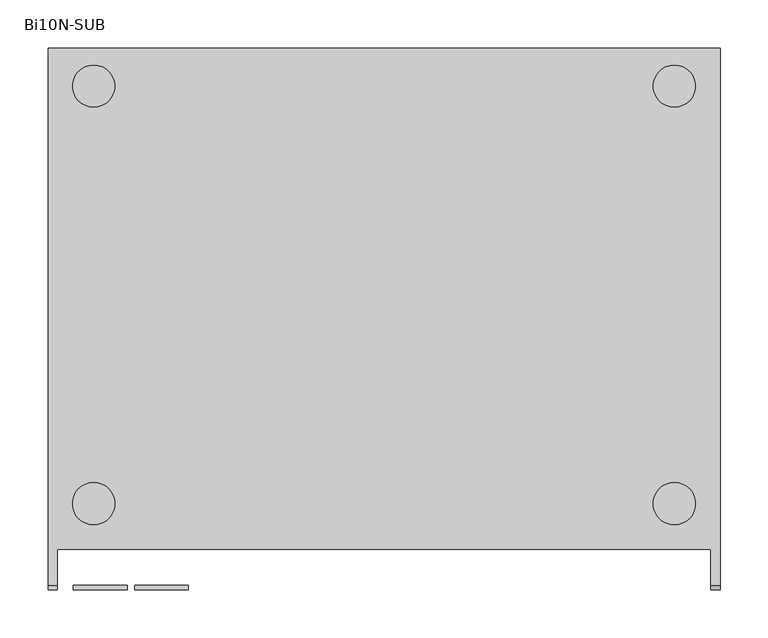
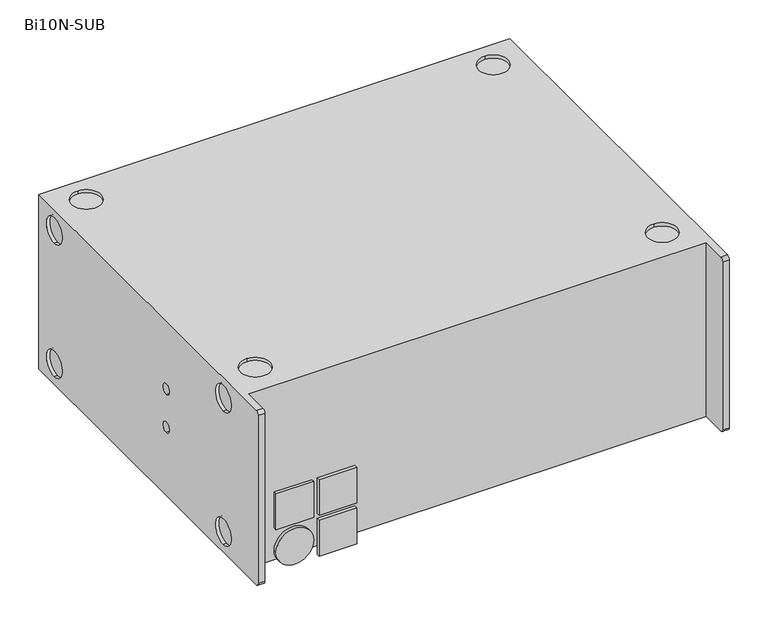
"""IFC4 building model written with IfcOpenShell, lengths in millimetres: proxy geometry, d&b Bi10N-SUB : Bi10N-SUB."""

from ifc_helpers import new_model, si_unit, point, frame, frame_2d, origin, origin_with_axes, place, context, project, spatial, polyline, circle_curve, trimmed, segment, composite_curve, outline, extrude, source, transform, mapped, element, save
from ifc_brep_helpers import plane_surface, cylinder_surface, revolved_surface, advanced_brep


def bi10n_sub_36906f2f(model_context):
    return source(origin(), model_context, "Body", "SolidModel", [
        advanced_brep(
        [(2850.0, 504.2505973, 279.0), (2150.0, 504.2505973, 279.0), (2150.0, -55.7494027, 279.0), (2159.8, -55.7494027, 279.0), (2159.8, -18.2494027, 279.0), (2840.2, -18.2494027, 279.0), (2840.2, -55.7494027, 279.0), (2850.0, -55.7494027, 279.0), (2197.5, 7.2505973, 279.0), (2197.5, 51.2505973, 279.0), (2197.5, 442.4754449, 279.0), (2197.5, 486.4754449, 279.0), (2802.5, 7.2505973, 279.0), (2802.5, 51.2505973, 279.0), (2802.5, 442.4754449, 279.0), (2802.5, 486.4754449, 279.0), (2150.0, 504.2505973, 5.0), (2150.0, -55.7494027, 5.0), (2150.0, -60.7494027, 10.0), (2150.0, -60.7494027, 274.0), (2150.0, 464.2505973, 227.0), (2150.0, 464.2505973, 267.0), (2150.0, 464.2505973, 17.0), (2150.0, 464.2505973, 57.0), (2150.0, 29.0257497, 17.0), (2150.0, 29.0257497, 57.0), (2150.0, 29.0257497, 227.0), (2150.0, 29.0257497, 267.0), (2150.0, 176.2505973, 163.9), (2150.0, 176.2505973, 180.1), (2150.0, 176.2505973, 103.9), (2150.0, 176.2505973, 120.1), (2159.8, -18.2494027, 5.0), (2840.2, -18.2494027, 5.0), (2159.8, -60.7494027, 10.0), (2159.8, -60.7494027, 274.0), (2723.3470134, 499.2505973, 191.7), (2723.3470134, 499.2505973, 92.3), (2712.8470134, 499.2505973, 81.8), (2669.8470134, 499.2505973, 81.8), (2659.3470134, 499.2505973, 92.3), (2659.3470134, 499.2505973, 191.7), (2669.8470134, 499.2505973, 202.2), (2712.8470134, 499.2505973, 202.2), (2159.8, -55.7494027, 5.0), (2850.0, 504.2505973, 5.0), (2850.0, -55.7494027, 5.0), (2840.2, -55.7494027, 5.0), (2650.1470134, 504.2505973, 190.6470095), (2638.1470134, 504.2505973, 202.6470095), (2519.153425, 504.2505973, 202.6470095), (2503.926988, 504.2505973, 192.1470095), (2424.073012, 504.2505973, 192.1470095), (2408.846575, 504.2505973, 202.6470095), (2289.8529944, 504.2505973, 202.6470095), (2277.8529944, 504.2505973, 190.6470095), (2277.8529944, 504.2505973, 93.3529905), (2289.8529944, 504.2505973, 81.3529905), (2408.846575, 504.2505973, 81.3529905), (2424.073012, 504.2505973, 91.8529905), (2503.926988, 504.2505973, 91.8529905), (2519.153425, 504.2505973, 81.3529905), (2638.1470134, 504.2505973, 81.3529905), (2650.1470134, 504.2505973, 93.3529905), (2723.3470134, 504.2505973, 92.3), (2723.3470134, 504.2505973, 191.7), (2712.8470134, 504.2505973, 202.2), (2669.8470134, 504.2505973, 202.2), (2659.3470134, 504.2505973, 191.7), (2659.3470134, 504.2505973, 92.3), (2669.8470134, 504.2505973, 81.8), (2712.8470134, 504.2505973, 81.8), (2197.5, 51.2505973, 274.0), (2197.5, 7.2505973, 274.0), (2197.5, 486.4754449, 274.0), (2197.5, 442.4754449, 274.0), (2840.2, -60.7494027, 10.0), (2840.2, -60.7494027, 274.0), (2850.0, -60.7494027, 274.0), (2850.0, -60.7494027, 10.0), (2850.0, 176.2505973, 163.9), (2850.0, 176.2505973, 180.1), (2850.0, 176.2505973, 103.9), (2850.0, 176.2505973, 120.1), (2802.5, 7.2505973, 274.0), (2802.5, 51.2505973, 274.0), (2802.5, 442.4754449, 274.0), (2802.5, 486.4754449, 274.0), (2287.8529944, 449.0471889, 185.5005283), (2340.1469289, 449.0471889, 185.5005283), (2340.1469289, 449.0471889, 98.5432161), (2287.8529944, 449.0471889, 98.5432161), (2287.8529944, 499.2505973, 185.5005283), (2357.9303168, 499.2505973, 185.5005283), (2357.9303168, 499.2505973, 98.5432161), (2287.8529944, 499.2505973, 98.5432161), (2638.1470134, 499.2505973, 202.6470095), (2650.1470134, 499.2505973, 190.6470095), (2650.1470134, 499.2505973, 93.3529905), (2638.1470134, 499.2505973, 81.3529905), (2519.153425, 499.2505973, 81.3529905), (2503.926988, 499.2505973, 91.8529905), (2424.073012, 499.2505973, 91.8529905), (2408.846575, 499.2505973, 81.3529905), (2289.8529944, 499.2505973, 81.3529905), (2277.8529944, 499.2505973, 93.3529905), (2277.8529944, 499.2505973, 190.6470095), (2289.8529944, 499.2505973, 202.6470095), (2408.846575, 499.2505973, 202.6470095), (2424.073012, 499.2505973, 192.1470095), (2503.926988, 499.2505973, 192.1470095), (2519.153425, 499.2505973, 202.6470095), (2638.9562346, 499.2505973, 185.5005283), (2542.01192, 499.2505973, 185.5005283), (2542.01192, 499.2505973, 98.5432161), (2638.9562346, 499.2505973, 98.5432161), (2627.0000039, 449.0471889, 185.5005283), (2627.0000039, 449.0471889, 98.5432161), (2562.712914, 449.0471889, 98.5432161), (2562.712914, 449.0471889, 185.5005283), (2155.0, 464.2505973, 227.0), (2155.0, 464.2505973, 267.0), (2155.0, 464.2505973, 17.0), (2155.0, 464.2505973, 57.0), (2155.0, 29.0257497, 17.0), (2155.0, 29.0257497, 57.0), (2155.0, 29.0257497, 227.0), (2155.0, 29.0257497, 267.0), (2220.0, 176.2505973, 180.1), (2220.0, 176.2505973, 163.9), (2220.0, 176.2505973, 120.1), (2220.0, 176.2505973, 103.9), (2780.0, 176.2505973, 163.9), (2780.0, 176.2505973, 180.1), (2780.0, 176.2505973, 103.9), (2780.0, 176.2505973, 120.1)],
        [
            (0, 1),
            (1, 2),
            (2, 3),
            (3, 4),
            (4, 5),
            (5, 6),
            (6, 7),
            (7, 0),
            (8, 9, circle_curve(frame((2197.5, 29.2505973, 279.0), z_axis=(0.0, 0.0, -1.0), x_axis=(0.0, 1.0, 0.0)), 22.0)),
            (9, 8, circle_curve(frame((2197.5, 29.2505973, 279.0), z_axis=(0.0, 0.0, -1.0), x_axis=(0.0, 1.0, 0.0)), 22.0)),
            (10, 11, circle_curve(frame((2197.5, 464.4754449, 279.0), z_axis=(0.0, 0.0, -1.0), x_axis=(0.0, 1.0, 0.0)), 22.0)),
            (11, 10, circle_curve(frame((2197.5, 464.4754449, 279.0), z_axis=(0.0, 0.0, -1.0), x_axis=(0.0, 1.0, 0.0)), 22.0)),
            (12, 13, circle_curve(frame((2802.5, 29.2505973, 279.0), z_axis=(0.0, 0.0, -1.0), x_axis=(0.0, 1.0, 0.0)), 22.0)),
            (13, 12, circle_curve(frame((2802.5, 29.2505973, 279.0), z_axis=(0.0, 0.0, -1.0), x_axis=(0.0, 1.0, 0.0)), 22.0)),
            (14, 15, circle_curve(frame((2802.5, 464.4754449, 279.0), z_axis=(0.0, 0.0, -1.0), x_axis=(0.0, 1.0, 0.0)), 22.0)),
            (15, 14, circle_curve(frame((2802.5, 464.4754449, 279.0), z_axis=(0.0, 0.0, -1.0), x_axis=(0.0, 1.0, 0.0)), 22.0)),
            (1, 16),
            (16, 17),
            (17, 18, circle_curve(frame((2150.0, -55.7494027, 10.0), z_axis=(-1.0, 0.0, 0.0), x_axis=(0.0, 0.0, 1.0)), 5.0)),
            (18, 19),
            (19, 2, circle_curve(frame((2150.0, -55.7494027, 274.0), z_axis=(-1.0, 0.0, 0.0), x_axis=(0.0, 0.0, 1.0)), 5.0)),
            (20, 21, circle_curve(frame((2150.0, 464.2505973, 247.0), z_axis=(1.0, 0.0, 0.0), x_axis=(0.0, 0.0, 1.0)), 20.0)),
            (21, 20, circle_curve(frame((2150.0, 464.2505973, 247.0), z_axis=(1.0, 0.0, 0.0), x_axis=(0.0, 0.0, 1.0)), 20.0)),
            (22, 23, circle_curve(frame((2150.0, 464.2505973, 37.0), z_axis=(1.0, 0.0, 0.0), x_axis=(0.0, 0.0, 1.0)), 20.0)),
            (23, 22, circle_curve(frame((2150.0, 464.2505973, 37.0), z_axis=(1.0, 0.0, 0.0), x_axis=(0.0, 0.0, 1.0)), 20.0)),
            (24, 25, circle_curve(frame((2150.0, 29.0257497, 37.0), z_axis=(1.0, 0.0, 0.0), x_axis=(0.0, 0.0, 1.0)), 20.0)),
            (25, 24, circle_curve(frame((2150.0, 29.0257497, 37.0), z_axis=(1.0, 0.0, 0.0), x_axis=(0.0, 0.0, 1.0)), 20.0)),
            (26, 27, circle_curve(frame((2150.0, 29.0257497, 247.0), z_axis=(1.0, 0.0, 0.0), x_axis=(0.0, 0.0, 1.0)), 20.0)),
            (27, 26, circle_curve(frame((2150.0, 29.0257497, 247.0), z_axis=(1.0, 0.0, 0.0), x_axis=(0.0, 0.0, 1.0)), 20.0)),
            (28, 29, circle_curve(frame((2150.0, 176.2505973, 172.0), z_axis=(1.0, 0.0, 0.0), x_axis=(0.0, 0.0, 1.0)), 8.1)),
            (29, 28, circle_curve(frame((2150.0, 176.2505973, 172.0), z_axis=(1.0, 0.0, 0.0), x_axis=(0.0, 0.0, 1.0)), 8.1)),
            (30, 31, circle_curve(frame((2150.0, 176.2505973, 112.0), z_axis=(1.0, 0.0, 0.0), x_axis=(0.0, 0.0, 1.0)), 8.1)),
            (31, 30, circle_curve(frame((2150.0, 176.2505973, 112.0), z_axis=(1.0, 0.0, 0.0), x_axis=(0.0, 0.0, 1.0)), 8.1)),
            (4, 32),
            (32, 33),
            (33, 5),
            (18, 34),
            (34, 35),
            (35, 19),
            (36, 37),
            (37, 38, circle_curve(frame((2712.8470134, 499.2505973, 92.3), z_axis=(0.0, 1.0, 0.0), x_axis=(-1.0, 0.0, 0.0)), 10.5)),
            (38, 39),
            (39, 40, circle_curve(frame((2669.8470134, 499.2505973, 92.3), z_axis=(0.0, 1.0, 0.0), x_axis=(-1.0, 0.0, 0.0)), 10.5)),
            (40, 41),
            (41, 42, circle_curve(frame((2669.8470134, 499.2505973, 191.7), z_axis=(0.0, 1.0, 0.0), x_axis=(-1.0, 0.0, 0.0)), 10.5)),
            (42, 43),
            (43, 36, circle_curve(frame((2712.8470134, 499.2505973, 191.7), z_axis=(0.0, 1.0, 0.0), x_axis=(-1.0, 0.0, 0.0)), 10.5)),
            (32, 44),
            (44, 17),
            (16, 45),
            (45, 46),
            (46, 47),
            (47, 33),
            (0, 45),
            (48, 49, circle_curve(frame((2638.1470134, 504.2505973, 190.6470095), z_axis=(0.0, -1.0, 0.0), x_axis=(-1.0, 0.0, 0.0)), 12.0)),
            (49, 50),
            (50, 51),
            (51, 52),
            (52, 53),
            (53, 54),
            (54, 55, circle_curve(frame((2289.8529944, 504.2505973, 190.6470095), z_axis=(0.0, -1.0, 0.0), x_axis=(-1.0, 0.0, 0.0)), 12.0)),
            (55, 56),
            (56, 57, circle_curve(frame((2289.8529944, 504.2505973, 93.3529905), z_axis=(0.0, -1.0, 0.0), x_axis=(-1.0, 0.0, 0.0)), 12.0)),
            (57, 58),
            (58, 59),
            (59, 60),
            (60, 61),
            (61, 62),
            (62, 63, circle_curve(frame((2638.1470134, 504.2505973, 93.3529905), z_axis=(0.0, -1.0, 0.0), x_axis=(-1.0, 0.0, 0.0)), 12.0)),
            (63, 48),
            (64, 65),
            (65, 66, circle_curve(frame((2712.8470134, 504.2505973, 191.7), z_axis=(0.0, -1.0, 0.0), x_axis=(-1.0, 0.0, 0.0)), 10.5)),
            (66, 67),
            (67, 68, circle_curve(frame((2669.8470134, 504.2505973, 191.7), z_axis=(0.0, -1.0, 0.0), x_axis=(-1.0, 0.0, 0.0)), 10.5)),
            (68, 69),
            (69, 70, circle_curve(frame((2669.8470134, 504.2505973, 92.3), z_axis=(0.0, -1.0, 0.0), x_axis=(-1.0, 0.0, 0.0)), 10.5)),
            (70, 71),
            (71, 64, circle_curve(frame((2712.8470134, 504.2505973, 92.3), z_axis=(0.0, -1.0, 0.0), x_axis=(-1.0, 0.0, 0.0)), 10.5)),
            (72, 73, circle_curve(frame((2197.5, 29.2505973, 274.0), z_axis=(0.0, 0.0, 1.0), x_axis=(0.0, 1.0, 0.0)), 22.0)),
            (73, 72, circle_curve(frame((2197.5, 29.2505973, 274.0), z_axis=(0.0, 0.0, 1.0), x_axis=(0.0, 1.0, 0.0)), 22.0)),
            (74, 75, circle_curve(frame((2197.5, 464.4754449, 274.0), z_axis=(0.0, 0.0, 1.0), x_axis=(0.0, 1.0, 0.0)), 22.0)),
            (75, 74, circle_curve(frame((2197.5, 464.4754449, 274.0), z_axis=(0.0, 0.0, 1.0), x_axis=(0.0, 1.0, 0.0)), 22.0)),
            (8, 73),
            (72, 9),
            (10, 75),
            (74, 11),
            (3, 35, circle_curve(frame((2159.8, -55.7494027, 274.0), z_axis=(1.0, 0.0, 0.0), x_axis=(0.0, 0.0, 1.0)), 5.0)),
            (34, 44, circle_curve(frame((2159.8, -55.7494027, 10.0), z_axis=(1.0, 0.0, 0.0), x_axis=(0.0, 0.0, 1.0)), 5.0)),
            (47, 76, circle_curve(frame((2840.2, -55.7494027, 10.0), z_axis=(-1.0, 0.0, 0.0), x_axis=(0.0, 0.0, 1.0)), 5.0)),
            (76, 77),
            (77, 6, circle_curve(frame((2840.2, -55.7494027, 274.0), z_axis=(-1.0, 0.0, 0.0), x_axis=(0.0, 0.0, 1.0)), 5.0)),
            (7, 78, circle_curve(frame((2850.0, -55.7494027, 274.0), z_axis=(1.0, 0.0, 0.0), x_axis=(0.0, 0.0, 1.0)), 5.0)),
            (78, 79),
            (79, 46, circle_curve(frame((2850.0, -55.7494027, 10.0), z_axis=(1.0, 0.0, 0.0), x_axis=(0.0, 0.0, 1.0)), 5.0)),
            (80, 81, circle_curve(frame((2850.0, 176.2505973, 172.0), z_axis=(-1.0, 0.0, 0.0), x_axis=(0.0, 0.0, 1.0)), 8.1)),
            (81, 80, circle_curve(frame((2850.0, 176.2505973, 172.0), z_axis=(-1.0, 0.0, 0.0), x_axis=(0.0, 0.0, 1.0)), 8.1)),
            (82, 83, circle_curve(frame((2850.0, 176.2505973, 112.0), z_axis=(-1.0, 0.0, 0.0), x_axis=(0.0, 0.0, 1.0)), 8.1)),
            (83, 82, circle_curve(frame((2850.0, 176.2505973, 112.0), z_axis=(-1.0, 0.0, 0.0), x_axis=(0.0, 0.0, 1.0)), 8.1)),
            (12, 84),
            (84, 85, circle_curve(frame((2802.5, 29.2505973, 274.0), z_axis=(0.0, 0.0, -1.0), x_axis=(0.0, 1.0, 0.0)), 22.0)),
            (85, 13),
            (85, 84, circle_curve(frame((2802.5, 29.2505973, 274.0), z_axis=(0.0, 0.0, -1.0), x_axis=(0.0, 1.0, 0.0)), 22.0)),
            (14, 86),
            (86, 87, circle_curve(frame((2802.5, 464.4754449, 274.0), z_axis=(0.0, 0.0, -1.0), x_axis=(0.0, 1.0, 0.0)), 22.0)),
            (87, 15),
            (87, 86, circle_curve(frame((2802.5, 464.4754449, 274.0), z_axis=(0.0, 0.0, -1.0), x_axis=(0.0, 1.0, 0.0)), 22.0)),
            (78, 77),
            (76, 79),
            (88, 89),
            (89, 90),
            (90, 91),
            (91, 88),
            (88, 92),
            (92, 93),
            (93, 89),
            (93, 94),
            (94, 90),
            (94, 95),
            (95, 91),
            (95, 92),
            (96, 97, circle_curve(frame((2638.1470134, 499.2505973, 190.6470095), z_axis=(0.0, 1.0, 0.0), x_axis=(-1.0, 0.0, 0.0)), 12.0)),
            (97, 98),
            (98, 99, circle_curve(frame((2638.1470134, 499.2505973, 93.3529905), z_axis=(0.0, 1.0, 0.0), x_axis=(-1.0, 0.0, 0.0)), 12.0)),
            (99, 100),
            (100, 101),
            (101, 102),
            (102, 103),
            (103, 104),
            (104, 105, circle_curve(frame((2289.8529944, 499.2505973, 93.3529905), z_axis=(0.0, 1.0, 0.0), x_axis=(-1.0, 0.0, 0.0)), 12.0)),
            (105, 106),
            (106, 107, circle_curve(frame((2289.8529944, 499.2505973, 190.6470095), z_axis=(0.0, 1.0, 0.0), x_axis=(-1.0, 0.0, 0.0)), 12.0)),
            (107, 108),
            (108, 109),
            (109, 110),
            (110, 111),
            (111, 96),
            (112, 113),
            (113, 114),
            (114, 115),
            (115, 112),
            (96, 49),
            (48, 97),
            (63, 98),
            (62, 99),
            (61, 100),
            (60, 101),
            (59, 102),
            (58, 103),
            (57, 104),
            (56, 105),
            (55, 106),
            (54, 107),
            (53, 108),
            (52, 109),
            (51, 110),
            (50, 111),
            (116, 117),
            (117, 118),
            (118, 119),
            (119, 116),
            (119, 113),
            (112, 116),
            (118, 114),
            (117, 115),
            (36, 65),
            (64, 37),
            (71, 38),
            (70, 39),
            (69, 40),
            (68, 41),
            (67, 42),
            (66, 43),
            (120, 121, circle_curve(frame((2155.0, 464.2505973, 247.0), z_axis=(-1.0, 0.0, 0.0), x_axis=(0.0, 0.0, 1.0)), 20.0)),
            (121, 120, circle_curve(frame((2155.0, 464.2505973, 247.0), z_axis=(-1.0, 0.0, 0.0), x_axis=(0.0, 0.0, 1.0)), 20.0)),
            (122, 123, circle_curve(frame((2155.0, 464.2505973, 37.0), z_axis=(-1.0, 0.0, 0.0), x_axis=(0.0, 0.0, 1.0)), 20.0)),
            (123, 122, circle_curve(frame((2155.0, 464.2505973, 37.0), z_axis=(-1.0, 0.0, 0.0), x_axis=(0.0, 0.0, 1.0)), 20.0)),
            (124, 125, circle_curve(frame((2155.0, 29.0257497, 37.0), z_axis=(-1.0, 0.0, 0.0), x_axis=(0.0, 0.0, 1.0)), 20.0)),
            (125, 124, circle_curve(frame((2155.0, 29.0257497, 37.0), z_axis=(-1.0, 0.0, 0.0), x_axis=(0.0, 0.0, 1.0)), 20.0)),
            (126, 127, circle_curve(frame((2155.0, 29.0257497, 247.0), z_axis=(-1.0, 0.0, 0.0), x_axis=(0.0, 0.0, 1.0)), 20.0)),
            (127, 126, circle_curve(frame((2155.0, 29.0257497, 247.0), z_axis=(-1.0, 0.0, 0.0), x_axis=(0.0, 0.0, 1.0)), 20.0)),
            (121, 21),
            (20, 120),
            (123, 23),
            (22, 122),
            (125, 25),
            (24, 124),
            (127, 27),
            (26, 126),
            (29, 128),
            (128, 129, circle_curve(frame((2220.0, 176.2505973, 172.0), z_axis=(1.0, 0.0, 0.0), x_axis=(0.0, 0.0, 1.0)), 8.1)),
            (129, 28),
            (129, 128, circle_curve(frame((2220.0, 176.2505973, 172.0), z_axis=(1.0, 0.0, 0.0), x_axis=(0.0, 0.0, 1.0)), 8.1)),
            (31, 130),
            (130, 131, circle_curve(frame((2220.0, 176.2505973, 112.0), z_axis=(1.0, 0.0, 0.0), x_axis=(0.0, 0.0, 1.0)), 8.1)),
            (131, 30),
            (131, 130, circle_curve(frame((2220.0, 176.2505973, 112.0), z_axis=(1.0, 0.0, 0.0), x_axis=(0.0, 0.0, 1.0)), 8.1)),
            (132, 133, circle_curve(frame((2780.0, 176.2505973, 172.0), z_axis=(-1.0, 0.0, 0.0), x_axis=(0.0, 0.0, 1.0)), 8.1)),
            (133, 81),
            (80, 132),
            (133, 132, circle_curve(frame((2780.0, 176.2505973, 172.0), z_axis=(-1.0, 0.0, 0.0), x_axis=(0.0, 0.0, 1.0)), 8.1)),
            (134, 135, circle_curve(frame((2780.0, 176.2505973, 112.0), z_axis=(-1.0, 0.0, 0.0), x_axis=(0.0, 0.0, 1.0)), 8.1)),
            (135, 83),
            (82, 134),
            (135, 134, circle_curve(frame((2780.0, 176.2505973, 112.0), z_axis=(-1.0, 0.0, 0.0), x_axis=(0.0, 0.0, 1.0)), 8.1)),
        ],
        [
            plane_surface(frame((2150.0, 504.2505973, 279.0), z_axis=(0.0, 0.0, 1.0), x_axis=(-1.0, 0.0, 0.0))),
            plane_surface(frame((2150.0, -18.2494027, 5.0), z_axis=(-1.0, 0.0, 0.0), x_axis=(0.0, 0.0, 1.0))),
            plane_surface(frame((2220.0, -18.2494027, 274.0), z_axis=(0.0, -1.0, 0.0), x_axis=(-1.0, 0.0, 0.0))),
            plane_surface(frame((2159.8, -60.7494027, 274.0), z_axis=(0.0, -1.0, 0.0), x_axis=(-1.0, 0.0, 0.0))),
            plane_surface(frame((2723.3470134, 499.2505973, 191.7), z_axis=(0.0, 1.0, 0.0), x_axis=(0.0, 0.0, 1.0))),
            plane_surface(frame((2220.0, -18.2494027, 5.0), z_axis=(0.0, 0.0, -1.0), x_axis=(-1.0, 0.0, 0.0))),
            plane_surface(frame((2220.0, 504.2505973, 5.0), z_axis=(0.0, 1.0, 0.0), x_axis=(-1.0, 0.0, 0.0))),
            plane_surface(frame((2220.0, 504.2505973, 274.0), z_axis=(0.0, 0.0, 1.0), x_axis=(-1.0, 0.0, 0.0))),
            revolved_surface(polyline([(2197.5, 51.250597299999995, 274.0), (2197.5, 51.250597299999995, 279.0)]), (2197.5, 29.2505973, 279.0), (0.0, 0.0, -1.0)),
            revolved_surface(polyline([(2197.5, 486.4754449, 274.0), (2197.5, 486.4754449, 279.0)]), (2197.5, 464.4754449, 279.0), (0.0, 0.0, -1.0)),
            plane_surface(frame((2159.8, -55.7494027, 279.0), z_axis=(1.0, 0.0, 0.0), x_axis=(0.0, 0.0, -1.0))),
            plane_surface(frame((2840.2, -18.2494027, 279.0), z_axis=(-1.0, 0.0, 0.0), x_axis=(0.0, 0.0, -1.0))),
            plane_surface(frame((2850.0, -55.7494027, 279.0), z_axis=(1.0, 0.0, 0.0), x_axis=(0.0, 0.0, -1.0))),
            revolved_surface(polyline([(2802.5, 51.250597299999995, 274.0), (2802.5, 51.250597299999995, 279.0)]), (2802.5, 29.2505973, 279.0), (0.0, 0.0, -1.0)),
            revolved_surface(polyline([(2802.5, 486.4754449, 274.0), (2802.5, 486.4754449, 279.0)]), (2802.5, 464.4754449, 279.0), (0.0, 0.0, -1.0)),
            cylinder_surface(frame((2150.0, -55.7494027, 274.0), z_axis=(1.0, 0.0, 0.0), x_axis=(0.0, 0.0, 1.0)), 5.0),
            cylinder_surface(frame((2150.0, -55.7494027, 10.0), z_axis=(1.0, 0.0, 0.0), x_axis=(0.0, 0.0, 1.0)), 5.0),
            plane_surface(frame((2840.2, -60.7494027, 10.0), z_axis=(0.0, -1.0, 0.0), x_axis=(1.0, 0.0, 0.0))),
            cylinder_surface(frame((2850.0, -55.7494027, 274.0), z_axis=(-1.0, 0.0, 0.0), x_axis=(0.0, 0.0, 1.0)), 5.0),
            cylinder_surface(frame((2850.0, -55.7494027, 10.0), z_axis=(-1.0, 0.0, 0.0), x_axis=(0.0, 0.0, 1.0)), 5.0),
            plane_surface(frame((2780.0, -18.2494027, 274.0), z_axis=(0.0, 0.0, 1.0), x_axis=(1.0, 0.0, 0.0))),
            plane_surface(frame((2313.9999617, 449.0471889, 142.0218722), z_axis=(0.0, 1.0, 0.0), x_axis=(1.0, 0.0, 0.0))),
            plane_surface(frame((2323.7772223, 504.2505973, 185.5005283), z_axis=(0.0, 0.0, -1.0), x_axis=(-1.0, 0.0, 0.0))),
            plane_surface(frame((2359.7014503, 504.2505973, 142.0218722), z_axis=(-0.9426094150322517, 0.3338974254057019, 0.0), x_axis=(0.0, 0.0, 1.0))),
            plane_surface(frame((2323.7772223, 504.2505973, 98.5432161), z_axis=(0.0, 0.0, 1.0), x_axis=(1.0, 0.0, 0.0))),
            plane_surface(frame((2287.8529944, 504.2505973, 142.0218722), z_axis=(1.0, 0.0, 0.0), x_axis=(0.0, 0.0, -1.0))),
            plane_surface(frame((2626.1470134, 499.2505973, 190.6470095), z_axis=(0.0, 1.0, 0.0), x_axis=(0.0, 0.0, -1.0))),
            revolved_surface(polyline([(2626.1470134, 504.2505973, 190.6470095), (2626.1470134, 499.2505973, 190.6470095)]), (2638.1470134, 499.2505973, 190.6470095), (0.0, 1.0, 0.0)),
            plane_surface(frame((2650.1470134, 504.2505973, 190.6470095), z_axis=(-1.0, 0.0, 0.0), x_axis=(0.0, -1.0, 0.0))),
            revolved_surface(polyline([(2626.1470134, 504.2505973, 93.3529905), (2626.1470134, 499.2505973, 93.3529905)]), (2638.1470134, 499.2505973, 93.3529905), (0.0, 1.0, 0.0)),
            plane_surface(frame((2638.1470134, 504.2505973, 81.3529905), z_axis=(0.0, 0.0, 1.0), x_axis=(0.0, -1.0, 0.0))),
            plane_surface(frame((2519.153425, 504.2505973, 81.3529905), z_axis=(0.5676966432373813, 0.0, 0.82323782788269), x_axis=(0.0, -1.0, 0.0))),
            plane_surface(frame((2503.926988, 504.2505973, 91.8529905), z_axis=(0.0, 0.0, 1.0), x_axis=(0.0, -1.0, 0.0))),
            plane_surface(frame((2424.073012, 504.2505973, 91.8529905), z_axis=(-0.567696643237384, 0.0, 0.8232378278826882), x_axis=(0.0, -1.0, 0.0))),
            plane_surface(frame((2408.846575, 504.2505973, 81.3529905), z_axis=(0.0, 0.0, 1.0), x_axis=(0.0, -1.0, 0.0))),
            revolved_surface(polyline([(2277.8529944, 504.2505973, 93.3529905), (2277.8529944, 499.2505973, 93.3529905)]), (2289.8529944, 499.2505973, 93.3529905), (0.0, 1.0, 0.0)),
            plane_surface(frame((2277.8529944, 504.2505973, 93.3529905), z_axis=(1.0, 0.0, 0.0), x_axis=(0.0, -1.0, 0.0))),
            revolved_surface(polyline([(2277.8529944, 504.2505973, 190.6470095), (2277.8529944, 499.2505973, 190.6470095)]), (2289.8529944, 499.2505973, 190.6470095), (0.0, 1.0, 0.0)),
            plane_surface(frame((2289.8529944, 504.2505973, 202.6470095), z_axis=(0.0, 0.0, -1.0), x_axis=(0.0, -1.0, 0.0))),
            plane_surface(frame((2408.846575, 504.2505973, 202.6470095), z_axis=(-0.5676966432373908, 0.0, -0.8232378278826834), x_axis=(0.0, -1.0, 0.0))),
            plane_surface(frame((2424.073012, 504.2505973, 192.1470095), z_axis=(0.0, 0.0, -1.0), x_axis=(0.0, -1.0, 0.0))),
            plane_surface(frame((2503.926988, 504.2505973, 192.1470095), z_axis=(0.567696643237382, 0.0, -0.8232378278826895), x_axis=(0.0, -1.0, 0.0))),
            plane_surface(frame((2519.153425, 504.2505973, 202.6470095), z_axis=(0.0, 0.0, -1.0), x_axis=(0.0, -1.0, 0.0))),
            plane_surface(frame((2594.8564589, 449.0471889, 142.0218722), z_axis=(0.0, 1.0, 0.0), x_axis=(0.0, 0.0, -1.0))),
            plane_surface(frame((2590.0486107, 504.2505973, 185.5005283), z_axis=(0.0, 0.0, -1.0), x_axis=(-1.0, 0.0, 0.0))),
            plane_surface(frame((2539.950208, 504.2505973, 142.0218722), z_axis=(0.9244899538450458, 0.38120640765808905, 0.0), x_axis=(0.0, 0.0, -1.0))),
            plane_surface(frame((2590.0486107, 504.2505973, 98.5432161), z_axis=(0.0, 0.0, 1.0), x_axis=(1.0, 0.0, 0.0))),
            plane_surface(frame((2640.1470134, 504.2505973, 142.0218722), z_axis=(-0.9727929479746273, 0.23167624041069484, 0.0), x_axis=(0.0, 0.0, 1.0))),
            plane_surface(frame((2723.3470134, 504.2505973, 191.7), z_axis=(-1.0, 0.0, 0.0), x_axis=(0.0, -1.0, 0.0))),
            revolved_surface(polyline([(2702.3470134, 504.2505973, 92.3), (2702.3470134, 499.2505973, 92.3)]), (2712.8470134, 499.2505973, 92.3), (0.0, 1.0, 0.0)),
            plane_surface(frame((2712.8470134, 504.2505973, 81.8), z_axis=(0.0, 0.0, 1.0), x_axis=(0.0, -1.0, 0.0))),
            revolved_surface(polyline([(2659.3470134, 504.2505973, 92.3), (2659.3470134, 499.2505973, 92.3)]), (2669.8470134, 499.2505973, 92.3), (0.0, 1.0, 0.0)),
            plane_surface(frame((2659.3470134, 504.2505973, 92.3), z_axis=(1.0, 0.0, 0.0), x_axis=(0.0, -1.0, 0.0))),
            revolved_surface(polyline([(2659.3470134, 504.2505973, 191.7), (2659.3470134, 499.2505973, 191.7)]), (2669.8470134, 499.2505973, 191.7), (0.0, 1.0, 0.0)),
            plane_surface(frame((2669.8470134, 504.2505973, 202.2), z_axis=(0.0, 0.0, -1.0), x_axis=(0.0, -1.0, 0.0))),
            revolved_surface(polyline([(2702.3470134, 504.2505973, 191.7), (2702.3470134, 499.2505973, 191.7)]), (2712.8470134, 499.2505973, 191.7), (0.0, 1.0, 0.0)),
            plane_surface(frame((2155.0, 464.2505973, 267.0), z_axis=(-1.0, 0.0, 0.0), x_axis=(0.0, -1.0, 0.0))),
            revolved_surface(polyline([(2155.0, 464.2505973, 267.0), (2150.0, 464.2505973, 267.0)]), (2150.0, 464.2505973, 247.0), (1.0, 0.0, 0.0)),
            revolved_surface(polyline([(2155.0, 464.2505973, 57.0), (2150.0, 464.2505973, 57.0)]), (2150.0, 464.2505973, 37.0), (1.0, 0.0, 0.0)),
            revolved_surface(polyline([(2155.0, 29.0257497, 57.0), (2150.0, 29.0257497, 57.0)]), (2150.0, 29.0257497, 37.0), (1.0, 0.0, 0.0)),
            revolved_surface(polyline([(2155.0, 29.0257497, 267.0), (2150.0, 29.0257497, 267.0)]), (2150.0, 29.0257497, 247.0), (1.0, 0.0, 0.0)),
            revolved_surface(polyline([(2150.0, 176.2505973, 180.1), (2220.0, 176.2505973, 180.1)]), (2150.0, 176.2505973, 172.0), (-1.0, 0.0, 0.0)),
            revolved_surface(polyline([(2150.0, 176.2505973, 120.1), (2220.0, 176.2505973, 120.1)]), (2150.0, 176.2505973, 112.0), (-1.0, 0.0, 0.0)),
            revolved_surface(polyline([(2780.0, 176.2505973, 180.1), (2850.0, 176.2505973, 180.1)]), (2850.0, 176.2505973, 172.0), (-1.0, 0.0, 0.0)),
            revolved_surface(polyline([(2780.0, 176.2505973, 120.1), (2850.0, 176.2505973, 120.1)]), (2850.0, 176.2505973, 112.0), (-1.0, 0.0, 0.0)),
            plane_surface(frame((2220.0, 504.2505973, 274.0), z_axis=(-1.0, 0.0, 0.0), x_axis=(0.0, 0.0, -1.0))),
            plane_surface(frame((2780.0, 176.2505973, 180.1), z_axis=(1.0, 0.0, 0.0), x_axis=(0.0, 1.0, 0.0))),
        ],
        [
            (0, [[1, 2, 3, 4, 5, 6, 7, 8], [9, 10], [11, 12], [13, 14], [15, 16]]),
            (1, [[-2, 17, 18, 19, 20, 21], [22, 23], [24, 25], [26, 27], [28, 29], [30, 31], [32, 33]]),
            (2, [[-5, 34, 35, 36]]),
            (3, [[-20, 37, 38, 39]]),
            (4, [[40, 41, 42, 43, 44, 45, 46, 47]]),
            (5, [[48, 49, -18, 50, 51, 52, 53, -35]]),
            (6, [[-1, 54, -50, -17], [55, 56, 57, 58, 59, 60, 61, 62, 63, 64, 65, 66, 67, 68, 69, 70], [71, 72, 73, 74, 75, 76, 77, 78]]),
            (7, [[79, 80]]),
            (7, [[81, 82]]),
            (8, [[-9, 83, -79, 84]]),
            (8, [[-10, -84, -80, -83]]),
            (9, [[-11, 85, -81, 86]]),
            (9, [[-12, -86, -82, -85]]),
            (10, [[-4, 87, -38, 88, -48, -34]]),
            (11, [[-6, -36, -53, 89, 90, 91]]),
            (12, [[-8, 92, 93, 94, -51, -54], [95, 96], [97, 98]]),
            (13, [[-13, 99, 100, 101]]),
            (13, [[-14, -101, 102, -99]]),
            (14, [[-15, 103, 104, 105]]),
            (14, [[-16, -105, 106, -103]]),
            (15, [[-21, -39, -87, -3]]),
            (16, [[-19, -49, -88, -37]]),
            (17, [[-93, 107, -90, 108]]),
            (18, [[-92, -7, -91, -107]]),
            (19, [[-94, -108, -89, -52]]),
            (20, [[-100, -102]]),
            (20, [[-104, -106]]),
            (21, [[109, 110, 111, 112]]),
            (22, [[-109, 113, 114, 115]]),
            (23, [[-110, -115, 116, 117]]),
            (24, [[-111, -117, 118, 119]]),
            (25, [[-112, -119, 120, -113]]),
            (26, [[121, 122, 123, 124, 125, 126, 127, 128, 129, 130, 131, 132, 133, 134, 135, 136], [-114, -120, -118, -116], [137, 138, 139, 140]]),
            (27, [[-121, 141, -55, 142]]),
            (28, [[-122, -142, -70, 143]]),
            (29, [[-123, -143, -69, 144]]),
            (30, [[-124, -144, -68, 145]]),
            (31, [[-125, -145, -67, 146]]),
            (32, [[-126, -146, -66, 147]]),
            (33, [[-127, -147, -65, 148]]),
            (34, [[-128, -148, -64, 149]]),
            (35, [[-129, -149, -63, 150]]),
            (36, [[-130, -150, -62, 151]]),
            (37, [[-131, -151, -61, 152]]),
            (38, [[-132, -152, -60, 153]]),
            (39, [[-133, -153, -59, 154]]),
            (40, [[-134, -154, -58, 155]]),
            (41, [[-135, -155, -57, 156]]),
            (42, [[-136, -156, -56, -141]]),
            (43, [[157, 158, 159, 160]]),
            (44, [[-160, 161, -137, 162]]),
            (45, [[-159, 163, -138, -161]]),
            (46, [[-158, 164, -139, -163]]),
            (47, [[-157, -162, -140, -164]]),
            (48, [[-40, 165, -71, 166]]),
            (49, [[-41, -166, -78, 167]]),
            (50, [[-42, -167, -77, 168]]),
            (51, [[-43, -168, -76, 169]]),
            (52, [[-44, -169, -75, 170]]),
            (53, [[-45, -170, -74, 171]]),
            (54, [[-46, -171, -73, 172]]),
            (55, [[-47, -172, -72, -165]]),
            (56, [[173, 174]]),
            (56, [[175, 176]]),
            (56, [[177, 178]]),
            (56, [[179, 180]]),
            (57, [[-174, 181, -22, 182]]),
            (57, [[-173, -182, -23, -181]]),
            (58, [[-176, 183, -24, 184]]),
            (58, [[-175, -184, -25, -183]]),
            (59, [[-178, 185, -26, 186]]),
            (59, [[-177, -186, -27, -185]]),
            (60, [[-180, 187, -28, 188]]),
            (60, [[-179, -188, -29, -187]]),
            (61, [[-31, 189, 190, 191]]),
            (61, [[-30, -191, 192, -189]]),
            (62, [[-33, 193, 194, 195]]),
            (62, [[-32, -195, 196, -193]]),
            (63, [[197, 198, -95, 199]]),
            (63, [[200, -199, -96, -198]]),
            (64, [[201, 202, -97, 203]]),
            (64, [[204, -203, -98, -202]]),
            (65, [[-190, -192]]),
            (65, [[-194, -196]]),
            (66, [[-200, -197]]),
            (66, [[-204, -201]]),
        ],
    ),
        extrude(outline(composite_curve([segment(trimmed(circle_curve(frame_2d((2197.5, 464.4754449)), 22.0), [point((2219.5, 464.4754449))], [point((2175.5, 464.4754449))], False, "CARTESIAN"), True, "CONTINUOUS"), segment(trimmed(circle_curve(frame_2d((2197.5, 464.4754449)), 22.0), [point((2175.5, 464.4754449))], [point((2219.5, 464.4754449))], False, "CARTESIAN"), True, "CONTINUOUS")], self_intersect=False)), origin_with_axes(), (0.0, 0.0, 1.0), 5.0),
        extrude(outline(composite_curve([segment(trimmed(circle_curve(frame_2d((2802.5, 464.4754449)), 22.0), [point((2824.5, 464.4754449))], [point((2780.5, 464.4754449))], False, "CARTESIAN"), True, "CONTINUOUS"), segment(trimmed(circle_curve(frame_2d((2802.5, 464.4754449)), 22.0), [point((2780.5, 464.4754449))], [point((2824.5, 464.4754449))], False, "CARTESIAN"), True, "CONTINUOUS")], self_intersect=False)), origin_with_axes(), (0.0, 0.0, 1.0), 5.0),
        extrude(outline(composite_curve([segment(trimmed(circle_curve(frame_2d((2197.5, 29.2505973)), 22.0), [point((2219.5, 29.2505973))], [point((2175.5, 29.2505973))], False, "CARTESIAN"), True, "CONTINUOUS"), segment(trimmed(circle_curve(frame_2d((2197.5, 29.2505973)), 22.0), [point((2175.5, 29.2505973))], [point((2219.5, 29.2505973))], False, "CARTESIAN"), True, "CONTINUOUS")], self_intersect=False)), origin_with_axes(), (0.0, 0.0, 1.0), 5.0),
        extrude(outline(composite_curve([segment(trimmed(circle_curve(frame_2d((2802.5, 29.2505973)), 22.0), [point((2824.5, 29.2505973))], [point((2780.5, 29.2505973))], False, "CARTESIAN"), True, "CONTINUOUS"), segment(trimmed(circle_curve(frame_2d((2802.5, 29.2505973)), 22.0), [point((2780.5, 29.2505973))], [point((2824.5, 29.2505973))], False, "CARTESIAN"), True, "CONTINUOUS")], self_intersect=False)), origin_with_axes(), (0.0, 0.0, 1.0), 5.0),
        extrude(outline(polyline([(2176.3, -55.7494027), (2232.3, -55.7494027), (2232.3, -60.7494027), (2176.3, -60.7494027), (2176.3, -55.7494027)])), frame((0.0, 0.0, 85.5), z_axis=(0.0, 0.0, 1.0), x_axis=(1.0, 0.0, 0.0)), (0.0, 0.0, 1.0), 56.0),
        extrude(outline(polyline([(2240.3, -55.7494027), (2296.3, -55.7494027), (2296.3, -60.7494027), (2240.3, -60.7494027), (2240.3, -55.7494027)])), frame((0.0, 0.0, 85.5), z_axis=(0.0, 0.0, 1.0), x_axis=(1.0, 0.0, 0.0)), (0.0, 0.0, 1.0), 56.0),
        extrude(outline(polyline([(2240.3, -55.7494027), (2296.3, -55.7494027), (2296.3, -60.7494027), (2240.3, -60.7494027), (2240.3, -55.7494027)])), frame((0.0, 0.0, 21.5), z_axis=(0.0, 0.0, 1.0), x_axis=(1.0, 0.0, 0.0)), (0.0, 0.0, 1.0), 56.0),
        extrude(outline(composite_curve([segment(trimmed(circle_curve(frame_2d((49.5, 2204.3)), 28.0), [point((49.5, 2232.3))], [point((49.5, 2176.3))], False, "CARTESIAN"), True, "CONTINUOUS"), segment(trimmed(circle_curve(frame_2d((49.5, 2204.3)), 28.0), [point((49.5, 2176.3))], [point((49.5, 2232.3))], False, "CARTESIAN"), True, "CONTINUOUS")], self_intersect=False)), frame((0.0, -60.7494027, 0.0), z_axis=(0.0, 1.0, 0.0), x_axis=(0.0, 0.0, 1.0)), (0.0, 0.0, 1.0), 5.0),
    ])


if __name__ == "__main__":
    model = new_model("IFC4")
    model_context = context("Model", 3, world=origin())
    ifc_project = project(units=[si_unit("LENGTHUNIT", "METRE", prefix="MILLI")], contexts=[model_context])
    site = spatial("IfcSite", under=ifc_project)
    building = spatial("IfcBuilding", under=site)
    placement = place(None, origin())
    bi10n_sub_shape = bi10n_sub_36906f2f(model_context)
    element("IfcBuildingElementProxy", 1, Name="d&b Bi10N-SUB : Bi10N-SUB", ObjectType="d&b Bi10N-SUB : Bi10N-SUB", at=placement, inside=building, context=model_context, shape_type="MappedRepresentation", body=[
        mapped(bi10n_sub_shape, transform((0.0, 0.0, 0.0), x_axis=(1.0, 0.0, 0.0), y_axis=(0.0, 1.0, 0.0), z_axis=(0.0, 0.0, 1.0))),
    ])
    save(model, "model.ifc")
